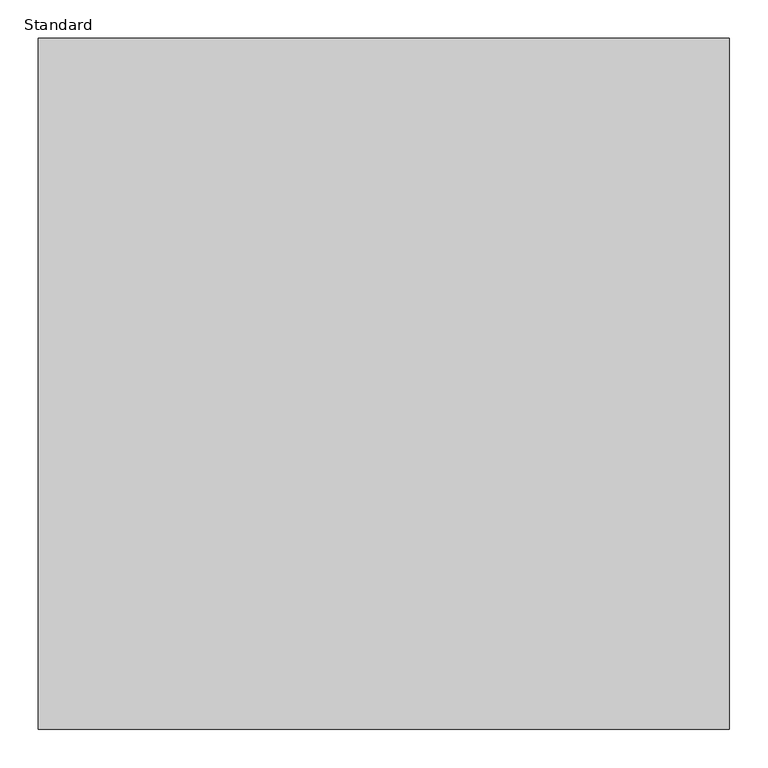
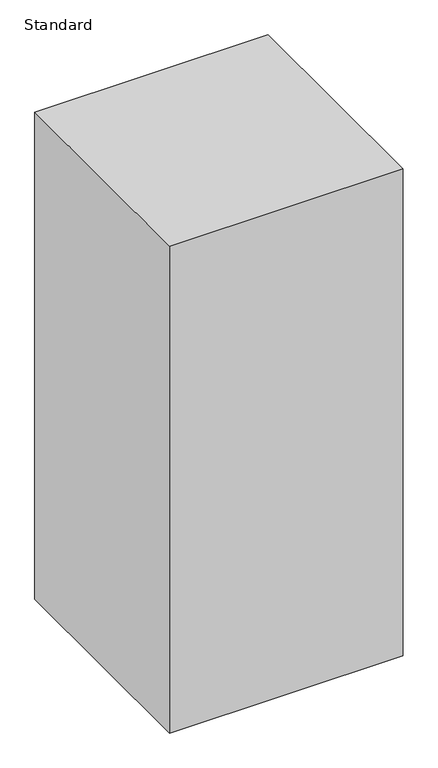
"""IFC4 building model written with IfcOpenShell, lengths in millimetres: proxy geometry, Clearance-Door-Circulation-AS1428.1-2021-Duracube : Standard."""

from ifc_helpers import new_model, si_unit, origin, origin_with_axes, place, context, project, spatial, polyline, outline, extrude, source, transform, mapped, element, save


def standard_de9d4adc(model_context):
    return source(origin(), model_context, "Body", "SweptSolid", [
        extrude(outline(polyline([(450.0, -450.0), (-450.0, -450.0), (-450.0, 450.0), (450.0, 450.0), (450.0, -450.0)])), origin_with_axes(), (0.0, 0.0, 1.0), 1985.0),
    ])


if __name__ == "__main__":
    model = new_model("IFC4")
    model_context = context("Model", 3, world=origin())
    ifc_project = project(units=[si_unit("LENGTHUNIT", "METRE", prefix="MILLI")], contexts=[model_context])
    site = spatial("IfcSite", under=ifc_project)
    building = spatial("IfcBuilding", under=site)
    placement = place(None, origin())
    standard_shape = standard_de9d4adc(model_context)
    element("IfcBuildingElementProxy", 1, Name="Clearance-Door-Circulation-AS1428.1-2021-Duracube : Standard", ObjectType="Clearance-Door-Circulation-AS1428.1-2021-Duracube : Standard", at=placement, inside=building, context=model_context, shape_type="MappedRepresentation", body=[
        mapped(standard_shape, transform((0.0, 0.0, 0.0), x_axis=(1.0, 0.0, 0.0), y_axis=(0.0, 1.0, 0.0), z_axis=(0.0, 0.0, 1.0))),
    ])
    save(model, "model.ifc")
